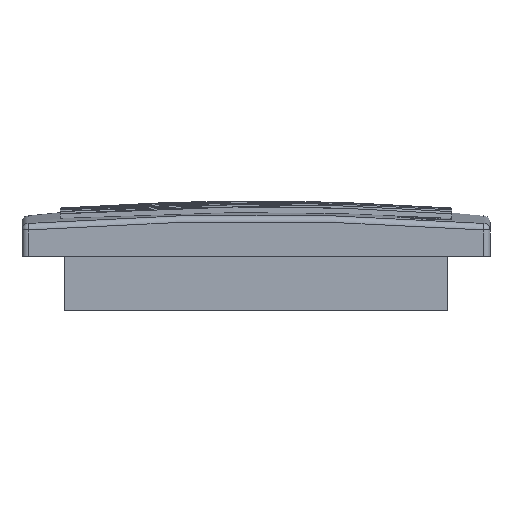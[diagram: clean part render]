
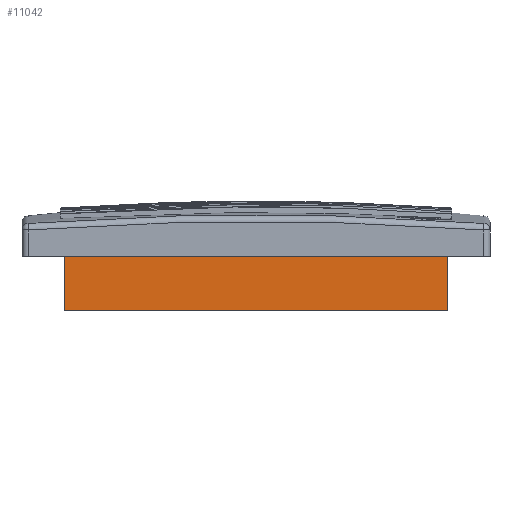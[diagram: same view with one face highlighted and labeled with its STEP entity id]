
A CAD part, front view. The second image highlights one B-rep face of the part: STEP entity #11042.
In plain terms, the highlighted planar face has unit normal (0, -1, 0).
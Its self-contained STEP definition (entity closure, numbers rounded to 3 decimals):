
#313 = CARTESIAN_POINT ( 'NONE',  ( 176., -176., 0. ) ) ;
#654 = AXIS2_PLACEMENT_3D ( 'NONE', #2236, #10349, #3418 ) ;
#888 = CARTESIAN_POINT ( 'NONE',  ( 0., -176., -25. ) ) ;
#1375 = VECTOR ( 'NONE', #7425, 1000. ) ;
#1564 = CARTESIAN_POINT ( 'NONE',  ( 0., -176., 0. ) ) ;
#1929 = EDGE_CURVE ( 'NONE', #9856, #7244, #3123, .T. ) ;
#1997 = CARTESIAN_POINT ( 'NONE',  ( 176., -176., 0. ) ) ;
#2236 = CARTESIAN_POINT ( 'NONE',  ( 176., -176., -25. ) ) ;
#2910 = EDGE_CURVE ( 'NONE', #6958, #7455, #3782, .T. ) ;
#3123 = LINE ( 'NONE', #313, #1375 ) ;
#3360 = PLANE ( 'NONE',  #654 ) ;
#3418 = DIRECTION ( 'NONE',  ( 0., 0., -1. ) ) ;
#3782 = LINE ( 'NONE', #7266, #11193 ) ;
#4368 = DIRECTION ( 'NONE',  ( 0., 0., 1. ) ) ;
#5446 = VECTOR ( 'NONE', #7833, 1000. ) ;
#6958 = VERTEX_POINT ( 'NONE', #13777 ) ;
#7244 = VERTEX_POINT ( 'NONE', #1564 ) ;
#7266 = CARTESIAN_POINT ( 'NONE',  ( 176., -176., -25. ) ) ;
#7425 = DIRECTION ( 'NONE',  ( -1., 0., 0. ) ) ;
#7455 = VERTEX_POINT ( 'NONE', #13264 ) ;
#7833 = DIRECTION ( 'NONE',  ( 0., 0., 1. ) ) ;
#8037 = ORIENTED_EDGE ( 'NONE', *, *, #1929, .T. ) ;
#9170 = EDGE_CURVE ( 'NONE', #7455, #7244, #10609, .T. ) ;
#9839 = EDGE_CURVE ( 'NONE', #6958, #9856, #13645, .T. ) ;
#9856 = VERTEX_POINT ( 'NONE', #1997 ) ;
#9964 = FACE_OUTER_BOUND ( 'NONE', #12661, .T. ) ;
#10349 = DIRECTION ( 'NONE',  ( 0., 1., 0. ) ) ;
#10420 = ORIENTED_EDGE ( 'NONE', *, *, #9839, .T. ) ;
#10609 = LINE ( 'NONE', #888, #5446 ) ;
#10843 = ORIENTED_EDGE ( 'NONE', *, *, #2910, .F. ) ;
#10947 = DIRECTION ( 'NONE',  ( -1., 0., 0. ) ) ;
#11042 = ADVANCED_FACE ( 'NONE', ( #9964 ), #3360, .F. ) ;
#11193 = VECTOR ( 'NONE', #10947, 1000. ) ;
#11230 = CARTESIAN_POINT ( 'NONE',  ( 176., -176., -25. ) ) ;
#12661 = EDGE_LOOP ( 'NONE', ( #8037, #12700, #10843, #10420 ) ) ;
#12700 = ORIENTED_EDGE ( 'NONE', *, *, #9170, .F. ) ;
#13172 = VECTOR ( 'NONE', #4368, 1000. ) ;
#13264 = CARTESIAN_POINT ( 'NONE',  ( 0., -176., -25. ) ) ;
#13645 = LINE ( 'NONE', #11230, #13172 ) ;
#13777 = CARTESIAN_POINT ( 'NONE',  ( 176., -176., -25. ) ) ;
